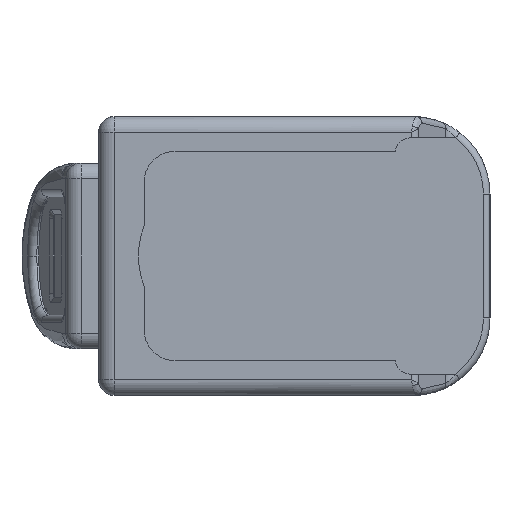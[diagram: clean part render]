
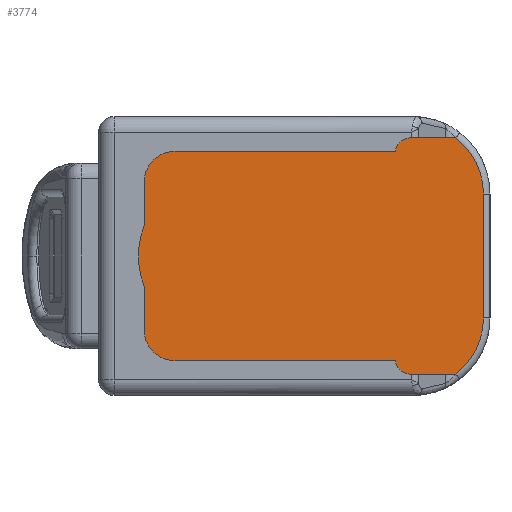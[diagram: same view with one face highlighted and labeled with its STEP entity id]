
A CAD part, left-side view. The second image highlights one B-rep face of the part: STEP entity #3774.
In plain terms, the highlighted planar face has unit normal (-1, 0, 0).
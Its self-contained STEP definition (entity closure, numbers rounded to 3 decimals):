
#521 = CARTESIAN_POINT ( 'NONE',  ( -329.6, 11.05, 20.75 ) ) ;
#649 = EDGE_CURVE ( 'NONE', #69230, #103819, #130601, .T. ) ;
#1370 = LINE ( 'NONE', #44272, #11944 ) ;
#1656 = EDGE_CURVE ( 'NONE', #94495, #103819, #1370, .T. ) ;
#2559 = VECTOR ( 'NONE', #22318, 1000. ) ;
#3245 = EDGE_CURVE ( 'NONE', #26075, #118234, #20332, .T. ) ;
#3774 = ADVANCED_FACE ( 'NONE', ( #42721 ), #88275, .T. ) ;
#5126 = DIRECTION ( 'NONE',  ( 0., -1., 0. ) ) ;
#5678 = AXIS2_PLACEMENT_3D ( 'NONE', #110841, #94978, #106853 ) ;
#7427 = CARTESIAN_POINT ( 'NONE',  ( -329.6, -59.648, 30.512 ) ) ;
#8541 = EDGE_LOOP ( 'NONE', ( #105526, #12594, #36210, #87664, #69667, #67154, #95699, #87572, #103077, #109321, #9372, #36110 ) ) ;
#9372 = ORIENTED_EDGE ( 'NONE', *, *, #649, .F. ) ;
#11253 = CARTESIAN_POINT ( 'NONE',  ( -329.6, -59.648, 30.5 ) ) ;
#11348 = EDGE_CURVE ( 'NONE', #71197, #26075, #87727, .T. ) ;
#11679 = VERTEX_POINT ( 'NONE', #103567 ) ;
#11944 = VECTOR ( 'NONE', #87054, 1000. ) ;
#12594 = ORIENTED_EDGE ( 'NONE', *, *, #3245, .F. ) ;
#13419 = DIRECTION ( 'NONE',  ( 0., -1., 0. ) ) ;
#14597 = CARTESIAN_POINT ( 'NONE',  ( -329.6, -59.648, -30.5 ) ) ;
#15035 = CARTESIAN_POINT ( 'NONE',  ( -329.6, -48.5, -16. ) ) ;
#15091 = AXIS2_PLACEMENT_3D ( 'NONE', #521, #74310, #85510 ) ;
#15729 = CARTESIAN_POINT ( 'NONE',  ( -329.6, 20.8, -20.75 ) ) ;
#17327 = DIRECTION ( 'NONE',  ( 0., 0., -1. ) ) ;
#17678 = CARTESIAN_POINT ( 'NONE',  ( -329.6, -48.5, 16. ) ) ;
#20332 = CIRCLE ( 'NONE', #98724, 22.25 ) ;
#20348 = VERTEX_POINT ( 'NONE', #71431 ) ;
#22318 = DIRECTION ( 'NONE',  ( 0., 0., 1. ) ) ;
#26075 = VERTEX_POINT ( 'NONE', #130822 ) ;
#26193 = EDGE_CURVE ( 'NONE', #20348, #42288, #83067, .T. ) ;
#32472 = CIRCLE ( 'NONE', #77372, 18.3 ) ;
#36110 = ORIENTED_EDGE ( 'NONE', *, *, #92343, .T. ) ;
#36165 = VERTEX_POINT ( 'NONE', #62903 ) ;
#36210 = ORIENTED_EDGE ( 'NONE', *, *, #11348, .F. ) ;
#36849 = EDGE_CURVE ( 'NONE', #42288, #11679, #112021, .T. ) ;
#40401 = CARTESIAN_POINT ( 'NONE',  ( -329.6, -66.8, 27. ) ) ;
#42288 = VERTEX_POINT ( 'NONE', #14597 ) ;
#42450 = CIRCLE ( 'NONE', #100685, 18.3 ) ;
#42721 = FACE_OUTER_BOUND ( 'NONE', #8541, .T. ) ;
#44272 = CARTESIAN_POINT ( 'NONE',  ( -329.6, -59.648, 27. ) ) ;
#46170 = CARTESIAN_POINT ( 'NONE',  ( -329.6, 20.8, -30.5 ) ) ;
#46902 = CARTESIAN_POINT ( 'NONE',  ( -329.6, -59.648, 27. ) ) ;
#46904 = CARTESIAN_POINT ( 'NONE',  ( -329.6, -68.5, 27. ) ) ;
#51622 = LINE ( 'NONE', #40401, #70997 ) ;
#54200 = VECTOR ( 'NONE', #113930, 1000. ) ;
#55881 = CARTESIAN_POINT ( 'NONE',  ( -329.6, 0., 0. ) ) ;
#57790 = CIRCLE ( 'NONE', #15091, 9.75 ) ;
#58321 = CARTESIAN_POINT ( 'NONE',  ( -329.6, 20.8, -30.5 ) ) ;
#58752 = EDGE_CURVE ( 'NONE', #118234, #36165, #78437, .T. ) ;
#60558 = VECTOR ( 'NONE', #17327, 1000. ) ;
#62903 = CARTESIAN_POINT ( 'NONE',  ( -329.6, 20.8, 20.75 ) ) ;
#65640 = VECTOR ( 'NONE', #13419, 1000. ) ;
#65825 = CARTESIAN_POINT ( 'NONE',  ( -329.6, 11.05, 30.5 ) ) ;
#67154 = ORIENTED_EDGE ( 'NONE', *, *, #36849, .T. ) ;
#69230 = VERTEX_POINT ( 'NONE', #65825 ) ;
#69667 = ORIENTED_EDGE ( 'NONE', *, *, #26193, .T. ) ;
#70997 = VECTOR ( 'NONE', #94384, 1000. ) ;
#71197 = VERTEX_POINT ( 'NONE', #15729 ) ;
#71431 = CARTESIAN_POINT ( 'NONE',  ( -329.6, 11.05, -30.5 ) ) ;
#74310 = DIRECTION ( 'NONE',  ( -1., 0., 0. ) ) ;
#77372 = AXIS2_PLACEMENT_3D ( 'NONE', #17678, #114454, #125637 ) ;
#77606 = DIRECTION ( 'NONE',  ( 1., 0., 0. ) ) ;
#78437 = LINE ( 'NONE', #46170, #2559 ) ;
#78468 = DIRECTION ( 'NONE',  ( 0., 0., -1. ) ) ;
#78942 = DIRECTION ( 'NONE',  ( -1., 0., 0. ) ) ;
#80551 = EDGE_CURVE ( 'NONE', #11679, #125286, #42450, .T. ) ;
#81951 = CIRCLE ( 'NONE', #5678, 9.75 ) ;
#83067 = LINE ( 'NONE', #125807, #54200 ) ;
#85510 = DIRECTION ( 'NONE',  ( 0., 0., -1. ) ) ;
#87054 = DIRECTION ( 'NONE',  ( 0., 0., -1. ) ) ;
#87572 = ORIENTED_EDGE ( 'NONE', *, *, #108516, .T. ) ;
#87664 = ORIENTED_EDGE ( 'NONE', *, *, #128481, .F. ) ;
#87727 = LINE ( 'NONE', #58321, #89253 ) ;
#88275 = PLANE ( 'NONE',  #114343 ) ;
#89253 = VECTOR ( 'NONE', #131871, 1000. ) ;
#91011 = DIRECTION ( 'NONE',  ( -1., 0., 0. ) ) ;
#92343 = EDGE_CURVE ( 'NONE', #69230, #36165, #57790, .T. ) ;
#94384 = DIRECTION ( 'NONE',  ( 0., 0., 1. ) ) ;
#94495 = VERTEX_POINT ( 'NONE', #7427 ) ;
#94978 = DIRECTION ( 'NONE',  ( 1., 0., 0. ) ) ;
#95075 = CARTESIAN_POINT ( 'NONE',  ( -329.6, -66.8, 16. ) ) ;
#95699 = ORIENTED_EDGE ( 'NONE', *, *, #80551, .T. ) ;
#95940 = VERTEX_POINT ( 'NONE', #95075 ) ;
#98724 = AXIS2_PLACEMENT_3D ( 'NONE', #55881, #77606, #5126 ) ;
#99232 = DIRECTION ( 'NONE',  ( 0., 0., -1. ) ) ;
#99274 = CARTESIAN_POINT ( 'NONE',  ( -329.6, 20.8, 7.901 ) ) ;
#100685 = AXIS2_PLACEMENT_3D ( 'NONE', #15035, #78942, #99232 ) ;
#103077 = ORIENTED_EDGE ( 'NONE', *, *, #127238, .T. ) ;
#103567 = CARTESIAN_POINT ( 'NONE',  ( -329.6, -59.648, -30.512 ) ) ;
#103819 = VERTEX_POINT ( 'NONE', #11253 ) ;
#105526 = ORIENTED_EDGE ( 'NONE', *, *, #58752, .F. ) ;
#106853 = DIRECTION ( 'NONE',  ( 0., 0., 1. ) ) ;
#108516 = EDGE_CURVE ( 'NONE', #125286, #95940, #51622, .T. ) ;
#109321 = ORIENTED_EDGE ( 'NONE', *, *, #1656, .T. ) ;
#110416 = CARTESIAN_POINT ( 'NONE',  ( -329.6, -66.8, -16. ) ) ;
#110841 = CARTESIAN_POINT ( 'NONE',  ( -329.6, 11.05, -20.75 ) ) ;
#112021 = LINE ( 'NONE', #46902, #60558 ) ;
#113930 = DIRECTION ( 'NONE',  ( 0., -1., 0. ) ) ;
#114343 = AXIS2_PLACEMENT_3D ( 'NONE', #46904, #91011, #78468 ) ;
#114454 = DIRECTION ( 'NONE',  ( -1., 0., 0. ) ) ;
#118234 = VERTEX_POINT ( 'NONE', #99274 ) ;
#120072 = CARTESIAN_POINT ( 'NONE',  ( -329.6, 20.8, 30.5 ) ) ;
#125286 = VERTEX_POINT ( 'NONE', #110416 ) ;
#125637 = DIRECTION ( 'NONE',  ( 0., 0., -1. ) ) ;
#125807 = CARTESIAN_POINT ( 'NONE',  ( -329.6, 20.8, -30.5 ) ) ;
#127238 = EDGE_CURVE ( 'NONE', #95940, #94495, #32472, .T. ) ;
#128481 = EDGE_CURVE ( 'NONE', #20348, #71197, #81951, .T. ) ;
#130601 = LINE ( 'NONE', #120072, #65640 ) ;
#130822 = CARTESIAN_POINT ( 'NONE',  ( -329.6, 20.8, -7.901 ) ) ;
#131871 = DIRECTION ( 'NONE',  ( 0., 0., 1. ) ) ;
